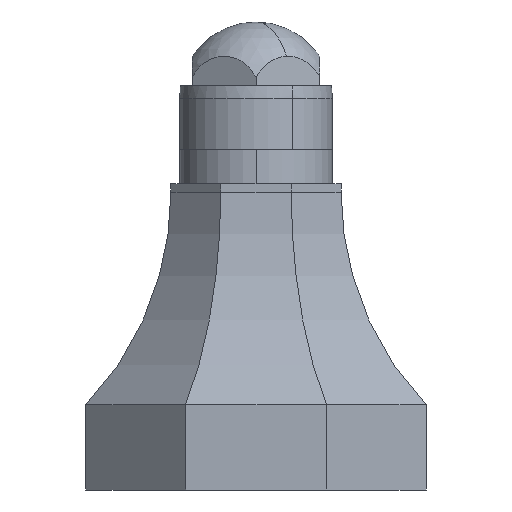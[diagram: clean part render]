
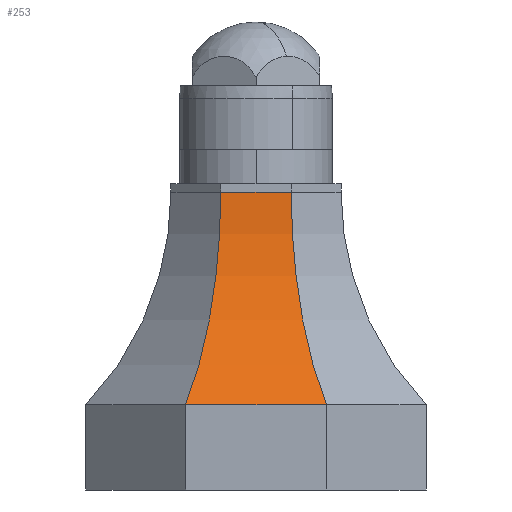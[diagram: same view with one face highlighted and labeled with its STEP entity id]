
A CAD part, left-side view. The second image highlights one B-rep face of the part: STEP entity #253.
In plain terms, the highlighted cylindrical face has radius 72.5 mm (diameter 145 mm), a partial arc.
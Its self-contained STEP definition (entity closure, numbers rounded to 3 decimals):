
#128=CARTESIAN_POINT('Vertex',(-40.,16.569,0.)) ;
#189=CARTESIAN_POINT('Control Point',(-40.,16.569,0.)) ;
#190=CARTESIAN_POINT('Control Point',(-32.576,13.493,7.795)) ;
#191=CARTESIAN_POINT('Control Point',(-26.489,10.972,17.079)) ;
#192=CARTESIAN_POINT('Control Point',(-22.159,9.179,27.606)) ;
#193=CARTESIAN_POINT('Control Point',(-20.,8.284,38.805)) ;
#194=CARTESIAN_POINT('Control Point',(-20.,8.284,50.)) ;
#195=CARTESIAN_POINT('Vertex',(-20.,8.284,50.)) ;
#220=CARTESIAN_POINT('Axis2P3D Location',(-92.5,0.,50.)) ;
#226=CARTESIAN_POINT('Control Point',(-40.,-16.569,0.)) ;
#227=CARTESIAN_POINT('Control Point',(-32.576,-13.493,7.795)) ;
#228=CARTESIAN_POINT('Control Point',(-26.489,-10.972,17.079)) ;
#229=CARTESIAN_POINT('Control Point',(-22.159,-9.179,27.606)) ;
#230=CARTESIAN_POINT('Control Point',(-20.,-8.284,38.805)) ;
#231=CARTESIAN_POINT('Control Point',(-20.,-8.284,50.)) ;
#232=CARTESIAN_POINT('Vertex',(-40.,-16.569,0.)) ;
#234=CARTESIAN_POINT('Vertex',(-20.,-8.284,50.)) ;
#237=CARTESIAN_POINT('Line Origine',(-20.,0.,50.)) ;
#242=CARTESIAN_POINT('Line Origine',(-40.,0.,0.)) ;
#221=DIRECTION('Axis2P3D Direction',(0.,-1.,0.)) ;
#222=DIRECTION('Axis2P3D XDirection',(0.724,0.,-0.69)) ;
#238=DIRECTION('Vector Direction',(0.,-1.,0.)) ;
#243=DIRECTION('Vector Direction',(0.,-1.,0.)) ;
#223=AXIS2_PLACEMENT_3D('Cylinder Axis2P3D',#220,#221,#222) ;
#248=ORIENTED_EDGE('',*,*,#236,.T.) ;
#249=ORIENTED_EDGE('',*,*,#241,.T.) ;
#250=ORIENTED_EDGE('',*,*,#197,.F.) ;
#251=ORIENTED_EDGE('',*,*,#246,.F.) ;
#239=VECTOR('Line Direction',#238,1.) ;
#244=VECTOR('Line Direction',#243,1.) ;
#253=ADVANCED_FACE('\X2\96F64EF651E04F554F53\X0\',(#252),#224,.F.) ;
#188=B_SPLINE_CURVE_WITH_KNOTS('',5,(#189,#190,#191,#192,#193,#194),.UNSPECIFIED.,.F.,.U.,(6,6),(0.,79.162),.UNSPECIFIED.) ;
#225=B_SPLINE_CURVE_WITH_KNOTS('',5,(#226,#227,#228,#229,#230,#231),.UNSPECIFIED.,.F.,.U.,(6,6),(0.,79.162),.UNSPECIFIED.) ;
#224=CYLINDRICAL_SURFACE('generated cylinder',#223,72.5) ;
#197=EDGE_CURVE('',#129,#196,#188,.T.) ;
#236=EDGE_CURVE('',#233,#235,#225,.T.) ;
#241=EDGE_CURVE('',#235,#196,#240,.F.) ;
#246=EDGE_CURVE('',#233,#129,#245,.F.) ;
#247=EDGE_LOOP('',(#248,#249,#250,#251)) ;
#252=FACE_OUTER_BOUND('',#247,.T.) ;
#240=LINE('Line',#237,#239) ;
#245=LINE('Line',#242,#244) ;
#129=VERTEX_POINT('',#128) ;
#196=VERTEX_POINT('',#195) ;
#233=VERTEX_POINT('',#232) ;
#235=VERTEX_POINT('',#234) ;
